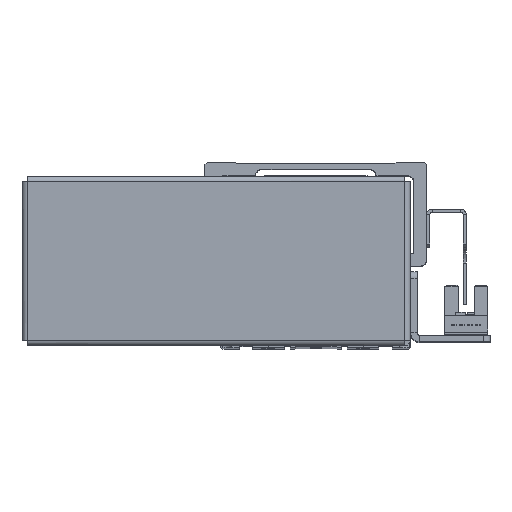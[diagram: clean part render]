
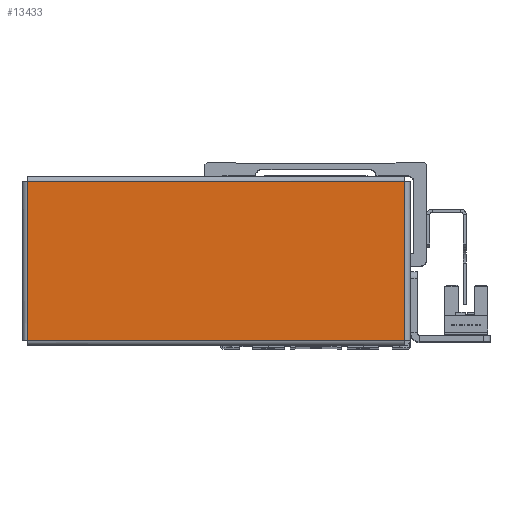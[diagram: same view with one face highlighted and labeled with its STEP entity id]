
A CAD part, top view. The second image highlights one B-rep face of the part: STEP entity #13433.
In plain terms, the highlighted planar face has unit normal (0, 0, 1) as drawn and (0, 0, -1) by its records, which use the part's own axes.
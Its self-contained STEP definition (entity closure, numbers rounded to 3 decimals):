
#1636 = AXIS2_PLACEMENT_3D ( 'NONE', #20231, #20220, #20237 ) ;
#2961 = VERTEX_POINT ( 'NONE', #9722 ) ;
#2965 = VERTEX_POINT ( 'NONE', #9706 ) ;
#2984 = VERTEX_POINT ( 'NONE', #9693 ) ;
#3005 = VERTEX_POINT ( 'NONE', #9691 ) ;
#5189 = LINE ( 'NONE', #5833, #5195 ) ;
#5195 = VECTOR ( 'NONE', #5823, 1000. ) ;
#5222 = VECTOR ( 'NONE', #5968, 1000. ) ;
#5223 = LINE ( 'NONE', #5903, #5274 ) ;
#5243 = LINE ( 'NONE', #5957, #5222 ) ;
#5274 = VECTOR ( 'NONE', #5876, 1000. ) ;
#5308 = VECTOR ( 'NONE', #6016, 1000. ) ;
#5325 = LINE ( 'NONE', #6010, #5308 ) ;
#5823 = DIRECTION ( 'NONE',  ( 0., 1., 0. ) ) ;
#5833 = CARTESIAN_POINT ( 'NONE',  ( -59.513, -25.043, -1. ) ) ;
#5876 = DIRECTION ( 'NONE',  ( 0., -1., 0. ) ) ;
#5903 = CARTESIAN_POINT ( 'NONE',  ( 59.513, 25.043, -1. ) ) ;
#5957 = CARTESIAN_POINT ( 'NONE',  ( 59.543, -25.013, -1. ) ) ;
#5968 = DIRECTION ( 'NONE',  ( -1., 0., 0. ) ) ;
#6010 = CARTESIAN_POINT ( 'NONE',  ( -59.543, 25.013, -1. ) ) ;
#6016 = DIRECTION ( 'NONE',  ( 1., 0., 0. ) ) ;
#7564 = EDGE_CURVE ( 'NONE', #2965, #2961, #5189, .T. ) ;
#7579 = EDGE_CURVE ( 'NONE', #2984, #3005, #5223, .T. ) ;
#7613 = EDGE_CURVE ( 'NONE', #3005, #2965, #5243, .T. ) ;
#7620 = EDGE_CURVE ( 'NONE', #2961, #2984, #5325, .T. ) ;
#9691 = CARTESIAN_POINT ( 'NONE',  ( 59.513, -25.013, -1. ) ) ;
#9693 = CARTESIAN_POINT ( 'NONE',  ( 59.513, 25.013, -1. ) ) ;
#9706 = CARTESIAN_POINT ( 'NONE',  ( -59.513, -25.013, -1. ) ) ;
#9722 = CARTESIAN_POINT ( 'NONE',  ( -59.513, 25.013, -1. ) ) ;
#11413 = EDGE_LOOP ( 'NONE', ( #12611, #12599, #12630, #12608 ) ) ;
#12599 = ORIENTED_EDGE ( 'NONE', *, *, #7613, .T. ) ;
#12608 = ORIENTED_EDGE ( 'NONE', *, *, #7620, .T. ) ;
#12611 = ORIENTED_EDGE ( 'NONE', *, *, #7579, .T. ) ;
#12630 = ORIENTED_EDGE ( 'NONE', *, *, #7564, .T. ) ;
#13433 = ADVANCED_FACE ( 'NONE', ( #16940 ), #20152, .F. ) ;
#16940 = FACE_OUTER_BOUND ( 'NONE', #11413, .T. ) ;
#20152 = PLANE ( 'NONE',  #1636 ) ;
#20220 = DIRECTION ( 'NONE',  ( 0., 0., 1. ) ) ;
#20231 = CARTESIAN_POINT ( 'NONE',  ( 0., 0., -1. ) ) ;
#20237 = DIRECTION ( 'NONE',  ( 1., 0., 0. ) ) ;
